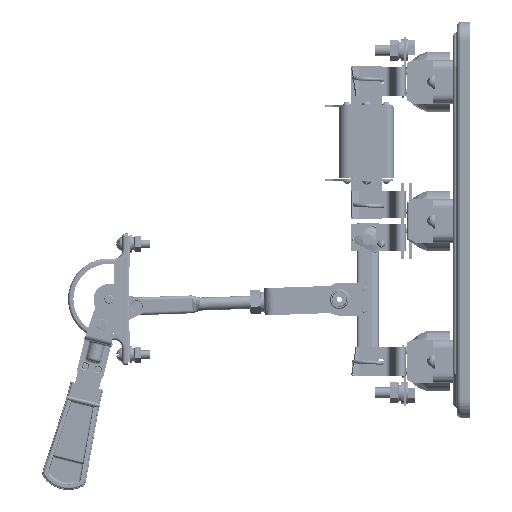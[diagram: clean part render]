
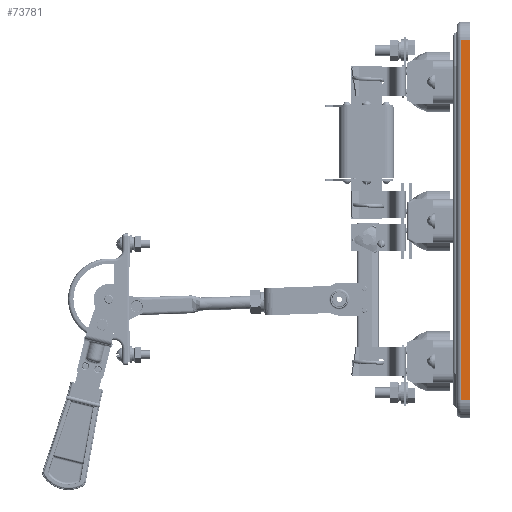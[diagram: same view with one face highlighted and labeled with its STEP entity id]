
A CAD part, left-side view. The second image highlights one B-rep face of the part: STEP entity #73781.
In plain terms, the highlighted planar face has unit normal (-1, 0, 0).
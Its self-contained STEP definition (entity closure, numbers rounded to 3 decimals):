
#73469 = VERTEX_POINT ( 'NONE', #95065 ) ;
#73588 = EDGE_CURVE ( 'NONE', #73469, #73591, #95140, .T. ) ;
#73591 = VERTEX_POINT ( 'NONE', #95180 ) ;
#73742 = EDGE_CURVE ( 'NONE', #73744, #73469, #95380, .T. ) ;
#73744 = VERTEX_POINT ( 'NONE', #95376 ) ;
#73748 = EDGE_LOOP ( 'NONE', ( #73791, #73797, #73802, #73848 ) ) ;
#73752 = EDGE_CURVE ( 'NONE', #73591, #73774, #95114, .T. ) ;
#73774 = VERTEX_POINT ( 'NONE', #95417 ) ;
#73781 = ADVANCED_FACE ( 'NONE', ( #95416 ), #95407, .F. ) ;
#73791 = ORIENTED_EDGE ( 'NONE', *, *, #73742, .T. ) ;
#73797 = ORIENTED_EDGE ( 'NONE', *, *, #73588, .T. ) ;
#73802 = ORIENTED_EDGE ( 'NONE', *, *, #73752, .T. ) ;
#73804 = EDGE_CURVE ( 'NONE', #73774, #73744, #95460, .T. ) ;
#73848 = ORIENTED_EDGE ( 'NONE', *, *, #73804, .T. ) ;
#95065 = CARTESIAN_POINT ( 'NONE',  ( -132., 6.6, 165.8 ) ) ;
#95100 = DIRECTION ( 'NONE',  ( 0., -1., 0. ) ) ;
#95101 = VECTOR ( 'NONE', #95100, 1000. ) ;
#95114 = LINE ( 'NONE', #95124, #95101 ) ;
#95124 = CARTESIAN_POINT ( 'NONE',  ( -132., 9.6, -165.8 ) ) ;
#95140 = LINE ( 'NONE', #95154, #95184 ) ;
#95154 = CARTESIAN_POINT ( 'NONE',  ( -132., 6.6, -180.8 ) ) ;
#95180 = CARTESIAN_POINT ( 'NONE',  ( -132., 6.6, -165.8 ) ) ;
#95184 = VECTOR ( 'NONE', #95198, 1000. ) ;
#95198 = DIRECTION ( 'NONE',  ( 0., 0., -1. ) ) ;
#95373 = DIRECTION ( 'NONE',  ( 0., 1., 0. ) ) ;
#95374 = VECTOR ( 'NONE', #95373, 1000. ) ;
#95375 = CARTESIAN_POINT ( 'NONE',  ( -132., 9.6, 165.8 ) ) ;
#95376 = CARTESIAN_POINT ( 'NONE',  ( -132., -1.2, 165.8 ) ) ;
#95380 = LINE ( 'NONE', #95375, #95374 ) ;
#95407 = PLANE ( 'NONE',  #95418 ) ;
#95416 = FACE_OUTER_BOUND ( 'NONE', #73748, .T. ) ;
#95417 = CARTESIAN_POINT ( 'NONE',  ( -132., -1.2, -165.8 ) ) ;
#95418 = AXIS2_PLACEMENT_3D ( 'NONE', #95428, #95467, #95466 ) ;
#95428 = CARTESIAN_POINT ( 'NONE',  ( -132., 9.6, -180.8 ) ) ;
#95445 = DIRECTION ( 'NONE',  ( 0., 0., 1. ) ) ;
#95446 = VECTOR ( 'NONE', #95445, 1000. ) ;
#95459 = CARTESIAN_POINT ( 'NONE',  ( -132., -1.2, -180.8 ) ) ;
#95460 = LINE ( 'NONE', #95459, #95446 ) ;
#95466 = DIRECTION ( 'NONE',  ( 0., 0., -1. ) ) ;
#95467 = DIRECTION ( 'NONE',  ( 1., 0., 0. ) ) ;
